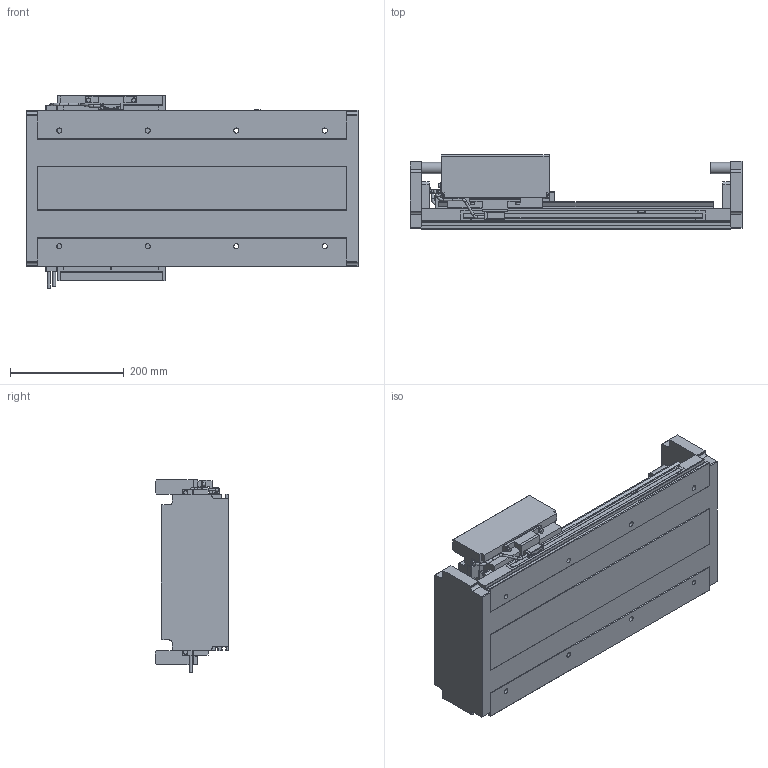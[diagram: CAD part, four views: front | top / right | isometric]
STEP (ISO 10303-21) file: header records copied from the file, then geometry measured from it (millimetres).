
FILE_DESCRIPTION(/* description */ ('STEP AP214'),/* implementation_level */ '2;1');
FILE_NAME(/* name */ 'GLM25-S-0210-Q01K-N-TDP20-N-N-N-N-03(545S0)',/* time_stamp */ '2025-09-17T19:28:51+02:00',/* author */ ('License CC BY-ND 4.0'),/* organization */ ('CADENAS'),/* preprocessor_version */ 'ST-DEVELOPER v19.3',/* originating_system */ 'PARTsolutions',/* authorisation */ ' ');
FILE_SCHEMA (('AUTOMOTIVE_DESIGN {1 0 10303 214 3 1 1}'));
Length unit declared in the file: millimetre
Products named in the file (3): GLM25-S-0210-Q01K-N-TDP20-N-N-N-N-03(545S0); GLM25-545-S-N-NN-N-BODY; GLM25-S-EP-N-NN-N-N-N
Assembly tree (2 placements, depth 2):
  GLM25-S-0210-Q01K-N-TDP20-N-N-N-N-03(545S0)
    GLM25-545-S-N-NN-N-BODY
    GLM25-S-EP-N-NN-N-N-N
Bounding box: 585 x 130 x 338.57 mm (x, y, z)
Volume: 10494581.6 mm3; surface area: 1012938.5 mm2
Topology: 2 solids, 2 shells, 729 faces, 1932 edges, 1245 vertices
Faces by surface type: plane 572, cylinder 116, cone 21, torus 16, sphere 4
Full cylindrical faces by diameter (mm): 1 x2, 2.135 x2, 3.065 x4, 3.85 x1, 4.25 x3, 4.7 x6, 4.917 x6, 5.2 x1, 6.5 x1, 7 x10, 8 x6, 9 x8, 14 x8, 20 x4
Entity records: 21711 total; most frequent: CARTESIAN_POINT 3875, ORIENTED_EDGE 3600, DIRECTION 3569, EDGE_CURVE 1800, LINE 1461, VECTOR 1461, VERTEX_POINT 1219, AXIS2_PLACEMENT_3D 1054
